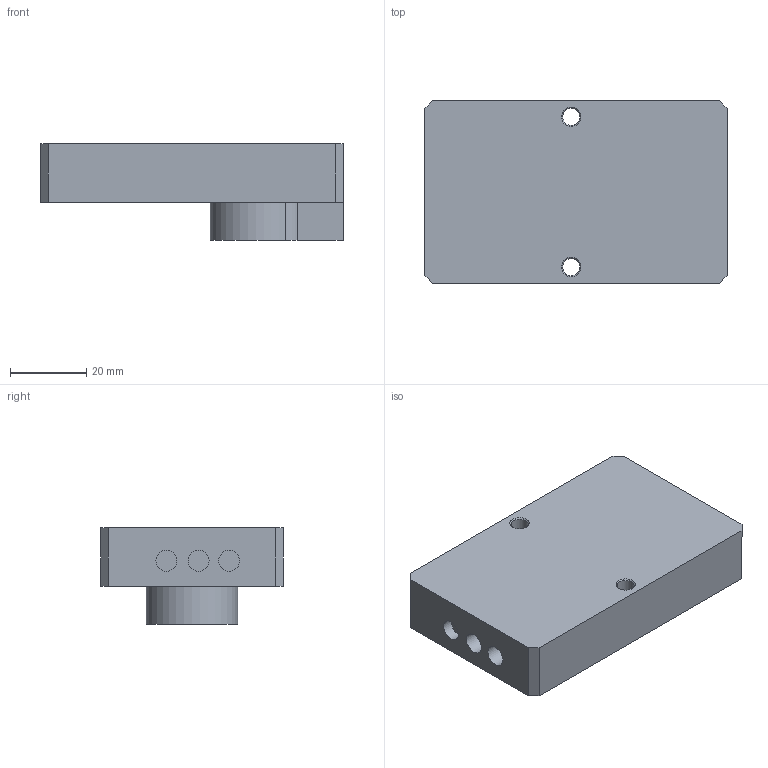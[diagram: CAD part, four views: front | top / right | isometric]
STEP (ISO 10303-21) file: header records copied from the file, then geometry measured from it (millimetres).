
FILE_DESCRIPTION(/* description */ ('GENERATORI DI VUOTO MULTISTADIO G3/8"- 4'),/* implementation_level */ '2;1');
FILE_NAME(/* name */ 'C:\PNX_VAULTFOLDER\Area Tecnica\Disegni\VARIE-3D\Componenti\1900 (vuoto)\19M38_M_12_SS_00.stp',/* time_stamp */ '2019-09-13T11:22:00+02:00',/* author */ ('maniean1'),/* organization */ ('Pneumax S.p.A.'),/* preprocessor_version */ 'ST-DEVELOPER v17',/* originating_system */ 'Autodesk Inventor 2019',/* authorisation */ '');
FILE_SCHEMA (('AUTOMOTIVE_DESIGN { 1 0 10303 214 3 1 1 }'));
Length unit declared in the file: millimetre
Products named in the file (1): 19M38.M.12.SS.00
Bounding box: 79.5 x 48 x 25.5 mm (x, y, z)
Volume: 61805.9 mm3; surface area: 15605.2 mm2
Topology: 1 solids, 7 shells, 190 faces, 495 edges, 344 vertices
Faces by surface type: plane 105, cylinder 34, bspline 32, cone 13, torus 6
Full cylindrical faces by diameter (mm): 3 x6, 3.5 x6, 4.5 x2, 5.5 x9, 6 x6, 8.566 x1, 14.95 x1
Entity records: 6472 total; most frequent: CARTESIAN_POINT 1541, ORIENTED_EDGE 988, DIRECTION 901, EDGE_CURVE 494, VERTEX_POINT 344, AXIS2_PLACEMENT_3D 312, LINE 277, VECTOR 277
